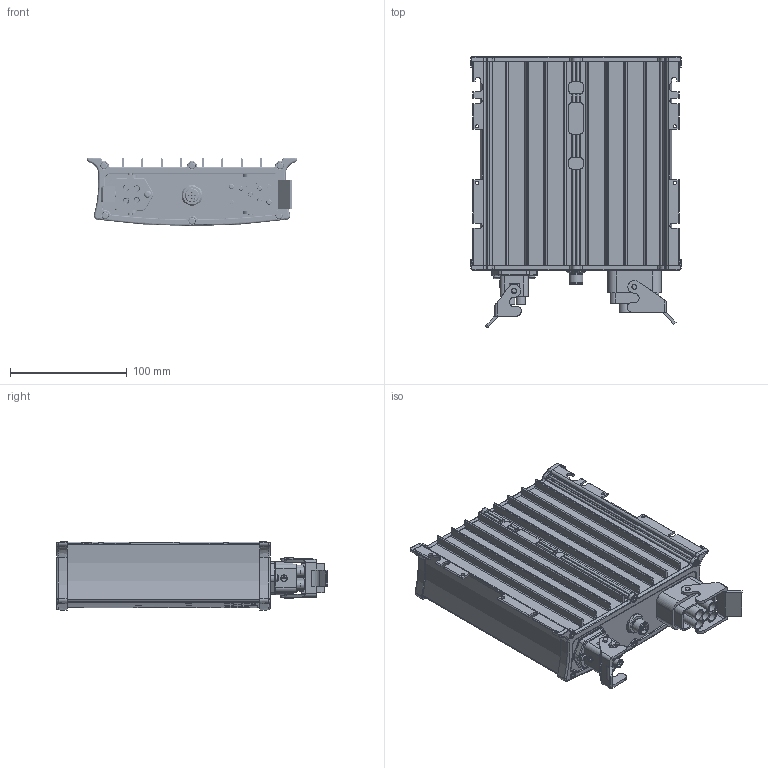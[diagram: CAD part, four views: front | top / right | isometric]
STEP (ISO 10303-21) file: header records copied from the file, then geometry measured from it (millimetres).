
FILE_DESCRIPTION (( 'STEP AP214' ), '1' );
FILE_NAME ('451.09.01.STEP', '2024-07-29T09:14:05', ( '' ), ( '' ), 'SwSTEP 2.0', 'SolidWorks 2024', '' );
FILE_SCHEMA (( 'AUTOMOTIVE_DESIGN' ));
Length unit declared in the file: millimetre
Products named in the file (1): 451.09.01
Bounding box: 180.63 x 232.7 x 58.73 mm (x, y, z)
Volume: 298497.6 mm3; surface area: 368128.4 mm2
Topology: 57 solids, 57 shells, 3828 faces, 10267 edges, 6873 vertices
Faces by surface type: plane 1961, cylinder 1130, torus 402, cone 236, bspline 95, sphere 4
Full cylindrical faces by diameter (mm): 0.116 x1, 0.151 x1, 0.165 x4, 0.195 x4, 0.228 x2, 0.269 x2, 0.452 x1, 0.455 x1, 0.538 x1, 0.56 x6, 0.57 x1, 0.591 x1, 0.63 x1, 0.8 x4, 1 x5, 1.4 x8, 1.6 x4, 1.75 x4, 2 x8, 2.2 x8, 2.3 x2, 2.4 x4, 2.459 x2, 2.5 x3, 2.6 x8, 2.7 x4, 2.85 x2, 3 x22, 3.05 x1, 3.2 x8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
Entity records: 182689 total; most frequent: CARTESIAN_POINT 46480, ORIENTED_EDGE 19342, DIRECTION 19108, EDGE_CURVE 9671, AXIS2_PLACEMENT_3D 7078, VERTEX_POINT 6727, VECTOR 4952, LINE 4952
